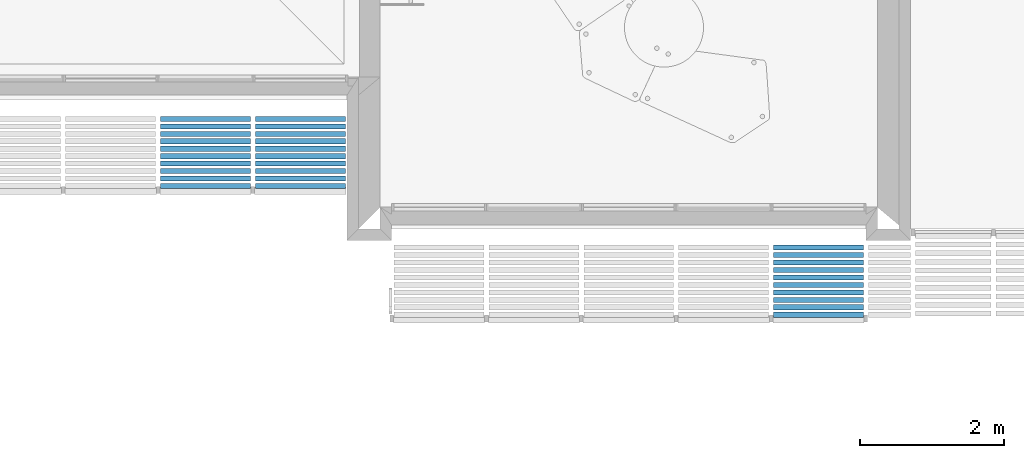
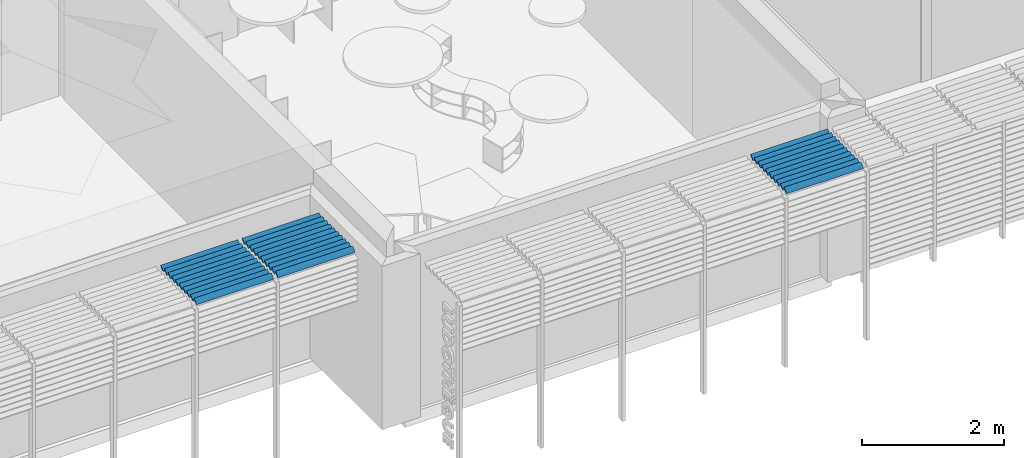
# One storey, part 32 of 64: 3 discrete accessories.
"""IFC2X3 building model written with IfcOpenShell, lengths in metres."""

from ifc_helpers import new_model, entity, si_unit, converted_unit, derived_unit, direction, frame, origin, place, context, subcontext, project, spatial, polyline, outline, extrude, source, transform, mapped, material, type_object, type_shapes, element, save


model = new_model("IFC2X3")

# Units and contexts
model_context = context("Model", 3, precision=1e-05, world=origin(), true_north=direction((6.123031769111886e-17, 1.0)))
body_context = subcontext(model_context, "Body", "Model", "MODEL_VIEW")
ifc_project = project(units=[si_unit("LENGTHUNIT", "METRE"), si_unit("AREAUNIT", "SQUARE_METRE"), si_unit("VOLUMEUNIT", "CUBIC_METRE"), converted_unit("PLANEANGLEUNIT", "DEGREE", entity("IfcRatioMeasure", 0.017453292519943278), si_unit("PLANEANGLEUNIT", "RADIAN"), dimensions=[0, 0, 0, 0, 0, 0, 0]), si_unit("MASSUNIT", "GRAM", prefix="KILO"), derived_unit("MASSDENSITYUNIT", [(si_unit("MASSUNIT", "GRAM", prefix="KILO"), 1), (si_unit("LENGTHUNIT", "METRE"), -3)]), derived_unit("MOMENTOFINERTIAUNIT", [(si_unit("LENGTHUNIT", "METRE"), 4)]), si_unit("TIMEUNIT", "SECOND"), si_unit("FREQUENCYUNIT", "HERTZ"), si_unit("THERMODYNAMICTEMPERATUREUNIT", "DEGREE_CELSIUS"), derived_unit("THERMALTRANSMITTANCEUNIT", [(si_unit("MASSUNIT", "GRAM", prefix="KILO"), 1), (si_unit("THERMODYNAMICTEMPERATUREUNIT", "KELVIN"), -1), (si_unit("TIMEUNIT", "SECOND"), -3)]), derived_unit("THERMALCONDUCTANCEUNIT", [(si_unit("MASSUNIT", "GRAM", prefix="KILO"), 1), (si_unit("LENGTHUNIT", "METRE"), 1), (si_unit("THERMODYNAMICTEMPERATUREUNIT", "KELVIN"), -1), (si_unit("TIMEUNIT", "SECOND"), -3)]), derived_unit("VOLUMETRICFLOWRATEUNIT", [(si_unit("LENGTHUNIT", "METRE"), 3), (si_unit("TIMEUNIT", "SECOND"), -1)]), derived_unit("MASSFLOWRATEUNIT", [(si_unit("MASSUNIT", "GRAM", prefix="KILO"), 1), (si_unit("TIMEUNIT", "SECOND"), -1)]), derived_unit("ROTATIONALFREQUENCYUNIT", [(si_unit("TIMEUNIT", "SECOND"), -1)]), si_unit("ELECTRICCURRENTUNIT", "AMPERE"), si_unit("ELECTRICVOLTAGEUNIT", "VOLT"), si_unit("POWERUNIT", "WATT"), si_unit("FORCEUNIT", "NEWTON", prefix="KILO"), si_unit("ILLUMINANCEUNIT", "LUX"), si_unit("LUMINOUSFLUXUNIT", "LUMEN"), si_unit("LUMINOUSINTENSITYUNIT", "CANDELA"), derived_unit("USERDEFINED", [(si_unit("MASSUNIT", "GRAM", prefix="KILO"), -1), (si_unit("LENGTHUNIT", "METRE"), -2), (si_unit("TIMEUNIT", "SECOND"), 3), (si_unit("LUMINOUSFLUXUNIT", "LUMEN"), 1)]), derived_unit("USERDEFINED", [(si_unit("MASSUNIT", "GRAM", prefix="KILO"), 1), (si_unit("LENGTHUNIT", "METRE"), 3), (si_unit("TIMEUNIT", "SECOND"), -3), (si_unit("ELECTRICCURRENTUNIT", "AMPERE"), -2)]), derived_unit("USERDEFINED", [(si_unit("LENGTHUNIT", "METRE"), 2), (si_unit("TIMEUNIT", "SECOND"), -2)]), derived_unit("SOUNDPOWERUNIT", [(si_unit("MASSUNIT", "GRAM", prefix="KILO"), 1), (si_unit("LENGTHUNIT", "METRE"), 2), (si_unit("TIMEUNIT", "SECOND"), -3)]), derived_unit("SOUNDPRESSUREUNIT", [(si_unit("MASSUNIT", "GRAM", prefix="KILO"), 1), (si_unit("LENGTHUNIT", "METRE"), -1), (si_unit("TIMEUNIT", "SECOND"), -2)]), derived_unit("LINEARVELOCITYUNIT", [(si_unit("LENGTHUNIT", "METRE"), 1), (si_unit("TIMEUNIT", "SECOND"), -1)]), si_unit("PRESSUREUNIT", "PASCAL"), derived_unit("USERDEFINED", [(si_unit("LENGTHUNIT", "METRE"), -2), (si_unit("MASSUNIT", "GRAM", prefix="KILO"), 1), (si_unit("TIMEUNIT", "SECOND"), -2)]), derived_unit("LINEARFORCEUNIT", [(si_unit("MASSUNIT", "GRAM", prefix="KILO"), 1), (si_unit("LENGTHUNIT", "METRE"), 1), (si_unit("TIMEUNIT", "SECOND"), -2), (si_unit("LENGTHUNIT", "METRE"), -1)]), derived_unit("PLANARFORCEUNIT", [(si_unit("MASSUNIT", "GRAM", prefix="KILO"), 1), (si_unit("LENGTHUNIT", "METRE"), 1), (si_unit("TIMEUNIT", "SECOND"), -2), (si_unit("LENGTHUNIT", "METRE"), -2)]), derived_unit("SPECIFICHEATCAPACITYUNIT", [(si_unit("LENGTHUNIT", "METRE"), 2), (si_unit("TIMEUNIT", "SECOND"), -2), (si_unit("THERMODYNAMICTEMPERATUREUNIT", "KELVIN"), -1)]), derived_unit("VAPORPERMEABILITYUNIT", [(si_unit("TIMEUNIT", "SECOND"), 1), (si_unit("LENGTHUNIT", "METRE"), -1)]), derived_unit("DYNAMICVISCOSITYUNIT", [(si_unit("MASSUNIT", "GRAM", prefix="KILO"), 1), (si_unit("LENGTHUNIT", "METRE"), -1), (si_unit("TIMEUNIT", "SECOND"), -1)]), derived_unit("THERMALEXPANSIONCOEFFICIENTUNIT", [(si_unit("THERMODYNAMICTEMPERATUREUNIT", "KELVIN"), -1)])], contexts=[model_context])

# Site, building, storey
site_placement = place(None, origin())
site = spatial("IfcSite", under=ifc_project, at=site_placement, Name="Default", CompositionType="ELEMENT")
building_placement = place(site_placement, origin())
building = spatial("IfcBuilding", under=site, at=building_placement, CompositionType="ELEMENT")
storey_placement = place(building_placement, origin())
storey = spatial("IfcBuildingStorey", under=building, at=storey_placement, Name="REZ-DE-CHAUSSÉE", CompositionType="ELEMENT", Elevation=0.0)

# Discrete accessories
ifc_material = material(Name="Bois - Chêne clair")
discrete_accessory_type_1 = type_object("IfcDiscreteAccessoryType", Name="Symb-0003", material=ifc_material)
shared_shape_1 = source(origin(), body_context, "Body", "SweptSolid", [
    extrude(outline(polyline([(-0.04642383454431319, -0.01856953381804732), (-0.02847328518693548, -0.01856953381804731), (-0.011760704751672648, -0.01547461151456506), (0.019188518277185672, -0.003094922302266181), (0.03342516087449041, 0.006189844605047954), (0.04642383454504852, 0.01856953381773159), (0.028473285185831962, 0.018569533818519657), (0.011760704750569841, 0.015474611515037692), (-0.019188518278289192, 0.0030949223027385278), (-0.033425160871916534, -0.006189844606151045), (-0.04642383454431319, -0.01856953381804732)])), frame((115.64575228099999, 3.9072094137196, 2.6500000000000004), z_axis=(1.0, 0.0, 0.0), x_axis=(0.0, 0.9191450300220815, 0.3939192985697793)), (0.0, 0.0, 1.0), 1.2500000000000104),
    extrude(outline(polyline([(-0.0464238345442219, -0.0185695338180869), (-0.028473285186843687, -0.018569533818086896), (-0.011760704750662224, -0.015474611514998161), (0.01918851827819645, -0.003094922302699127), (0.03342516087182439, 0.006189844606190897), (0.04642383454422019, 0.018569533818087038), (0.02847328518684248, 0.01856953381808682), (0.01176070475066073, 0.0154746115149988), (-0.01918851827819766, 0.003094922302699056), (-0.033425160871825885, -0.0061898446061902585), (-0.0464238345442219, -0.0185695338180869)])), frame((115.64575228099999, 3.8032094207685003, 2.6500000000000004), z_axis=(1.0, 0.0, 0.0), x_axis=(0.0, 0.9191450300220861, 0.39391929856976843)), (0.0, 0.0, 1.0), 1.2500000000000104),
    extrude(outline(polyline([(-0.04642383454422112, -0.01856953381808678), (-0.02847328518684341, -0.01856953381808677), (-0.011760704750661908, -0.015474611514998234), (0.01918851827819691, -0.0030949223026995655), (0.03342516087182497, 0.006189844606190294), (0.04642383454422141, 0.01856953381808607), (0.028473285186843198, 0.01856953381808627), (0.011760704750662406, 0.015474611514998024), (-0.019188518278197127, 0.0030949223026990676), (-0.03342516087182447, -0.006189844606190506), (-0.04642383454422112, -0.01856953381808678)])), frame((115.64575228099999, 3.6992094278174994, 2.6500000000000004), z_axis=(1.0, 0.0, 0.0), x_axis=(0.0, 0.9191450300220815, 0.3939192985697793)), (0.0, 0.0, 1.0), 1.2500000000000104),
    extrude(outline(polyline([(-0.046423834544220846, -0.018569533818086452), (-0.028473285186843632, -0.018569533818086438), (-0.011760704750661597, -0.01547461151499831), (0.019188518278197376, -0.003094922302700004), (0.03342516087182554, 0.0061898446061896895), (0.04642383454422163, 0.018569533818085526), (0.028473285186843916, 0.018569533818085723), (0.011760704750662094, 0.015474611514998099), (-0.01918851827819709, 0.0030949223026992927), (-0.033425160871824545, -0.0061898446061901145), (-0.046423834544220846, -0.018569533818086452)])), frame((115.64575228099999, 3.5952094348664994, 2.6500000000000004), z_axis=(1.0, 0.0, 0.0), x_axis=(0.0, 0.9191450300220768, 0.3939192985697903)), (0.0, 0.0, 1.0), 1.2500000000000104),
    extrude(outline(polyline([(-0.046423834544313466, -0.018569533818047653), (-0.028473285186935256, -0.01856953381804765), (-0.011760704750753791, -0.015474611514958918), (0.019188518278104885, -0.0030949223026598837), (0.03342516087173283, 0.006189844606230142), (0.04642383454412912, 0.01856953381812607), (0.028473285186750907, 0.018569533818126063), (0.011760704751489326, 0.015474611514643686), (-0.01918851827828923, 0.0030949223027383), (-0.03342516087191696, -0.006189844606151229), (-0.046423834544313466, -0.018569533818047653)])), frame((115.64575228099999, 3.4912094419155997, 2.6500000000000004), z_axis=(1.0, 0.0, 0.0), x_axis=(0.0, 0.9191450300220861, 0.39391929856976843)), (0.0, 0.0, 1.0), 1.2500000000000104),
    extrude(outline(polyline([(-0.04642383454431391, -0.018569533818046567), (-0.028473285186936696, -0.018569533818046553), (-0.011760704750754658, -0.01547461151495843), (0.019188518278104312, -0.0030949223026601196), (0.03342516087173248, 0.006189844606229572), (0.046423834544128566, 0.018569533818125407), (0.02847328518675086, 0.018569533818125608), (0.011760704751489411, 0.015474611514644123), (-0.019188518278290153, 0.0030949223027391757), (-0.0334251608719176, -0.006189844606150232), (-0.04642383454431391, -0.018569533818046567)])), frame((115.64575228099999, 3.3872094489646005, 2.6500000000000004), z_axis=(1.0, 0.0, 0.0), x_axis=(0.0, 0.9191450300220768, 0.3939192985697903)), (0.0, 0.0, 1.0), 1.2500000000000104),
    extrude(outline(polyline([(-0.04642383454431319, -0.018569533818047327), (-0.02847328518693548, -0.018569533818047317), (-0.011760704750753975, -0.015474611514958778), (0.019188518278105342, -0.0030949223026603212), (0.033425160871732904, 0.006189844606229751), (0.046423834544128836, 0.01856953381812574), (0.02847328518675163, 0.018569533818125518), (0.011760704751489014, 0.015474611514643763), (-0.019188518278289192, 0.0030949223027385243), (-0.033425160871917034, -0.006189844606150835), (-0.04642383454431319, -0.018569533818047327)])), frame((115.64575228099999, 3.2832094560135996, 2.6500000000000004), z_axis=(1.0, 0.0, 0.0), x_axis=(0.0, 0.9191450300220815, 0.3939192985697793)), (0.0, 0.0, 1.0), 1.2500000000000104),
    extrude(outline(polyline([(-0.046423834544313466, -0.018569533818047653), (-0.028473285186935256, -0.01856953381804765), (-0.011760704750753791, -0.015474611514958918), (0.019188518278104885, -0.0030949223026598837), (0.03342516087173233, 0.006189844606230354), (0.04642383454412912, 0.01856953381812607), (0.028473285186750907, 0.018569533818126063), (0.01176070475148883, 0.015474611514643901), (-0.01918851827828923, 0.0030949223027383), (-0.03342516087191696, -0.006189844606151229), (-0.046423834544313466, -0.018569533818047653)])), frame((115.64575228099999, 3.1792094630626, 2.6500000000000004), z_axis=(1.0, 0.0, 0.0), x_axis=(0.0, 0.9191450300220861, 0.39391929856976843)), (0.0, 0.0, 1.0), 1.2500000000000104),
    extrude(outline(polyline([(-0.04642383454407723, -0.01856953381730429), (-0.028473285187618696, -0.01856953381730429), (-0.011760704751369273, -0.015474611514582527), (0.019188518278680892, -0.0030949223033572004), (0.033425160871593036, 0.006189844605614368), (0.046423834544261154, 0.018569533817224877), (0.028473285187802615, 0.018569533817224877), (0.011760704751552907, 0.015474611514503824), (-0.019188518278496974, 0.003094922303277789), (-0.03342516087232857, -0.006189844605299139), (-0.04642383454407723, -0.01856953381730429)])), frame((115.64575228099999, 3.0752094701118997, 2.6500000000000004), z_axis=(1.0, 0.0, 0.0), x_axis=(0.0, 0.9191450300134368, 0.3939192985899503)), (0.0, 0.0, 1.0), 1.2500000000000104),
    extrude(outline(polyline([(-0.046423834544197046, -0.01856953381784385), (-0.02847328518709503, -0.01856953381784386), (-0.011760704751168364, -0.015474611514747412), (0.01918851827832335, -0.003094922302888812), (0.03342516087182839, 0.006189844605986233), (0.04642383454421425, 0.018569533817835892), (0.02847328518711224, 0.0185695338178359), (0.011760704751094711, 0.015474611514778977), (-0.019188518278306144, 0.0030949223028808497), (-0.033425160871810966, -0.006189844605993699), (-0.046423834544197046, -0.01856953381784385)])), frame((115.64575228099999, 2.97120947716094, 2.6500000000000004), z_axis=(1.0, 0.0, 0.0), x_axis=(0.0, 0.9191450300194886, 0.3939192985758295)), (0.0, 0.0, 1.0), 1.2500000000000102),
])
type_shapes(discrete_accessory_type_1, [shared_shape_1])
discrete_accessory_1_placement = place(storey_placement, origin())
element("IfcDiscreteAccessory", 1, at=discrete_accessory_1_placement, inside=storey, type_object=discrete_accessory_type_1, material=ifc_material, Name="Symb-0003 449563:Symb-0003 449563", ObjectType="Symb-0003 449563:Symb-0003 449563", context=body_context, shape_type="MappedRepresentation", body=[
    mapped(shared_shape_1, transform((0.0, 0.0, 0.0), scale=1.0)),
])
discrete_accessory_type_2 = type_object("IfcDiscreteAccessoryType", Name="Symb-0003", material=ifc_material)
shared_shape_2 = source(origin(), body_context, "Body", "SweptSolid", [
    extrude(outline(polyline([(-0.04642383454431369, -0.018569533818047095), (-0.028473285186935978, -0.01856953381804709), (-0.011760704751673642, -0.015474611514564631), (0.019188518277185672, -0.003094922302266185), (0.03342516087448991, 0.006189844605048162), (0.046423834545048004, 0.01856953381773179), (0.028473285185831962, 0.01856953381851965), (0.011760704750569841, 0.01547461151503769), (-0.01918851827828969, 0.003094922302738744), (-0.033425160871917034, -0.006189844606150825), (-0.04642383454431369, -0.018569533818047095)])), frame((107.11575228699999, 5.6972094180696, 2.6500000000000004), z_axis=(1.0, 0.0, 0.0), x_axis=(0.0, 0.9191450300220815, 0.3939192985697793)), (0.0, 0.0, 1.0), 1.2499999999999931),
    extrude(outline(polyline([(-0.04642383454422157, -0.01856953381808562), (-0.028473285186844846, -0.018569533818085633), (-0.011760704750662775, -0.015474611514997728), (0.01918851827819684, -0.0030949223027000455), (0.033425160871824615, 0.00618984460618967), (0.04642383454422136, 0.01856953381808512), (0.02847328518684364, 0.01856953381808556), (0.01176070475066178, 0.015474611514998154), (-0.01918851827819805, 0.0030949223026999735), (-0.033425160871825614, -0.006189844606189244), (-0.04642383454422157, -0.01856953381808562)])), frame((107.11575228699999, 5.5932094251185, 2.6500000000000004), z_axis=(1.0, 0.0, 0.0), x_axis=(0.0, 0.9191450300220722, 0.3939192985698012)), (0.0, 0.0, 1.0), 1.2499999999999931),
    extrude(outline(polyline([(-0.04642383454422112, -0.018569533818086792), (-0.02847328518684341, -0.01856953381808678), (-0.011760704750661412, -0.015474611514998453), (0.01918851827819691, -0.0030949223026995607), (0.03342516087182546, 0.006189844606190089), (0.0464238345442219, 0.01856953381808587), (0.028473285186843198, 0.018569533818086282), (0.011760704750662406, 0.015474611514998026), (-0.019188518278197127, 0.003094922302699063), (-0.03342516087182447, -0.006189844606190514), (-0.04642383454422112, -0.018569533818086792)])), frame((107.11575228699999, 5.4892094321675, 2.6500000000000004), z_axis=(1.0, 0.0, 0.0), x_axis=(0.0, 0.9191450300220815, 0.3939192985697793)), (0.0, 0.0, 1.0), 1.2499999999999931),
    extrude(outline(polyline([(-0.04642383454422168, -0.018569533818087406), (-0.02847328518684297, -0.01856953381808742), (-0.01176070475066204, -0.01547461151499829), (0.019188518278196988, -0.00309492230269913), (0.03342516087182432, 0.0061898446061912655), (0.04642383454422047, 0.018569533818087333), (0.028473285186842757, 0.01856953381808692), (0.011760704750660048, 0.015474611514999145), (-0.019188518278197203, 0.003094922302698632), (-0.03342516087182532, -0.0061898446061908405), (-0.04642383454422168, -0.018569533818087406)])), frame((107.11575228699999, 5.385209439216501, 2.6500000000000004), z_axis=(1.0, 0.0, 0.0), x_axis=(0.0, 0.9191450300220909, 0.3939192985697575)), (0.0, 0.0, 1.0), 1.2499999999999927),
    extrude(outline(polyline([(-0.04642383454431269, -0.018569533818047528), (-0.02847328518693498, -0.01856953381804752), (-0.011760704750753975, -0.015474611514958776), (0.019188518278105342, -0.003094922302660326), (0.033425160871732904, 0.006189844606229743), (0.046423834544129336, 0.018569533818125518), (0.02847328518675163, 0.018569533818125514), (0.01176070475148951, 0.015474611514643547), (-0.019188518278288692, 0.0030949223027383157), (-0.03342516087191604, -0.006189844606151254), (-0.04642383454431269, -0.018569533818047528)])), frame((107.11575228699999, 5.281209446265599, 2.6500000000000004), z_axis=(1.0, 0.0, 0.0), x_axis=(0.0, 0.9191450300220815, 0.3939192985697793)), (0.0, 0.0, 1.0), 1.2499999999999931),
    extrude(outline(polyline([(-0.04642383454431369, -0.0185695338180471), (-0.028473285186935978, -0.018569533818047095), (-0.011760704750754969, -0.01547461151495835), (0.019188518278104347, -0.0030949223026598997), (0.033425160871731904, 0.006189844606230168), (0.04642383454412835, 0.01856953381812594), (0.028473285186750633, 0.018569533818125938), (0.01176070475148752, 0.0154746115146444), (-0.01918851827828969, 0.0030949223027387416), (-0.033425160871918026, -0.0061898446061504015), (-0.04642383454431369, -0.0185695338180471)])), frame((107.11575228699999, 5.177209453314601, 2.6500000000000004), z_axis=(1.0, 0.0, 0.0), x_axis=(0.0, 0.9191450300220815, 0.3939192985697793)), (0.0, 0.0, 1.0), 1.2499999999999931),
    extrude(outline(polyline([(-0.04642383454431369, -0.01856953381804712), (-0.028473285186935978, -0.01856953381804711), (-0.011760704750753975, -0.015474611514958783), (0.019188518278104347, -0.00309492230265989), (0.033425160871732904, 0.00618984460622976), (0.046423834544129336, 0.01856953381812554), (0.028473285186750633, 0.01856953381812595), (0.01176070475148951, 0.015474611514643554), (-0.01918851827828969, 0.0030949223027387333), (-0.033425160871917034, -0.006189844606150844), (-0.04642383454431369, -0.01856953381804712)])), frame((107.11575228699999, 5.0732094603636, 2.6500000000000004), z_axis=(1.0, 0.0, 0.0), x_axis=(0.0, 0.9191450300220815, 0.3939192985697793)), (0.0, 0.0, 1.0), 1.2499999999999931),
    extrude(outline(polyline([(-0.04642383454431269, -0.01856953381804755), (-0.02847328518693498, -0.01856953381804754), (-0.01176070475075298, -0.01547461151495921), (0.019188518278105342, -0.0030949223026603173), (0.033425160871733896, 0.006189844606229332), (0.046423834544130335, 0.018569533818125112), (0.02847328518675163, 0.018569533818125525), (0.01176070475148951, 0.015474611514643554), (-0.019188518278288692, 0.003094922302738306), (-0.03342516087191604, -0.0061898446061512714), (-0.04642383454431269, -0.01856953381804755)])), frame((107.11575228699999, 4.9692094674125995, 2.6500000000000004), z_axis=(1.0, 0.0, 0.0), x_axis=(0.0, 0.9191450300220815, 0.3939192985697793)), (0.0, 0.0, 1.0), 1.2499999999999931),
    extrude(outline(polyline([(-0.04642383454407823, -0.018569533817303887), (-0.028473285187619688, -0.018569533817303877), (-0.011760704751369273, -0.015474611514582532), (0.0191885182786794, -0.003094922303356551), (0.033425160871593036, 0.006189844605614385), (0.04642383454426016, 0.018569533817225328), (0.02847328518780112, 0.018569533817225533), (0.01176070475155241, 0.015474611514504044), (-0.01918851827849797, 0.0030949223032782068), (-0.03342516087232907, -0.006189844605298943), (-0.04642383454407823, -0.018569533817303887)])), frame((107.11575228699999, 4.865209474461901, 2.6500000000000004), z_axis=(1.0, 0.0, 0.0), x_axis=(0.0, 0.9191450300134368, 0.3939192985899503)), (0.0, 0.0, 1.0), 1.249999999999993),
    extrude(outline(polyline([(-0.046423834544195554, -0.018569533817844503), (-0.028473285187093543, -0.018569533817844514), (-0.011760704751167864, -0.01547461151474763), (0.019188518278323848, -0.00309492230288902), (0.03342516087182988, 0.006189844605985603), (0.04642383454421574, 0.018569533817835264), (0.02847328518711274, 0.018569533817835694), (0.011760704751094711, 0.015474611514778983), (-0.019188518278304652, 0.003094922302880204), (-0.033425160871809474, -0.006189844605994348), (-0.046423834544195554, -0.018569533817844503)])), frame((107.11575228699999, 4.76120948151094, 2.6500000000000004), z_axis=(1.0, 0.0, 0.0), x_axis=(0.0, 0.9191450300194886, 0.3939192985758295)), (0.0, 0.0, 1.0), 1.2499999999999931),
])
type_shapes(discrete_accessory_type_2, [shared_shape_2])
discrete_accessory_2_placement = place(storey_placement, origin())
element("IfcDiscreteAccessory", 2, at=discrete_accessory_2_placement, inside=storey, type_object=discrete_accessory_type_2, material=ifc_material, Name="Symb-0003 453223:Symb-0003 453223", ObjectType="Symb-0003 453223:Symb-0003 453223", context=body_context, shape_type="MappedRepresentation", body=[
    mapped(shared_shape_2, transform((0.0, 0.0, 0.0), scale=1.0)),
])
discrete_accessory_type_3 = type_object("IfcDiscreteAccessoryType", Name="Symb-0003", material=ifc_material)
shared_shape_3 = source(origin(), body_context, "Body", "SweptSolid", [
    extrude(outline(polyline([(-0.04642383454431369, -0.018569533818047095), (-0.028473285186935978, -0.01856953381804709), (-0.011760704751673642, -0.015474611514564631), (0.019188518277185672, -0.003094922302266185), (0.03342516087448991, 0.006189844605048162), (0.046423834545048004, 0.01856953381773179), (0.028473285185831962, 0.01856953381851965), (0.011760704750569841, 0.01547461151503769), (-0.01918851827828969, 0.003094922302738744), (-0.033425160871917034, -0.006189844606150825), (-0.04642383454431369, -0.018569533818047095)])), frame((108.43575228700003, 5.6972094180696, 2.6500000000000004), z_axis=(1.0, 0.0, 0.0), x_axis=(0.0, 0.9191450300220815, 0.3939192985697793)), (0.0, 0.0, 1.0), 1.2499999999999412),
    extrude(outline(polyline([(-0.04642383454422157, -0.01856953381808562), (-0.028473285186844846, -0.018569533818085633), (-0.011760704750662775, -0.015474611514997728), (0.01918851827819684, -0.0030949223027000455), (0.033425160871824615, 0.00618984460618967), (0.04642383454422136, 0.01856953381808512), (0.02847328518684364, 0.01856953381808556), (0.01176070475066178, 0.015474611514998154), (-0.01918851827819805, 0.0030949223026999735), (-0.033425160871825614, -0.006189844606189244), (-0.04642383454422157, -0.01856953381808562)])), frame((108.43575228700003, 5.5932094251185, 2.6500000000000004), z_axis=(1.0, 0.0, 0.0), x_axis=(0.0, 0.9191450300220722, 0.3939192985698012)), (0.0, 0.0, 1.0), 1.2499999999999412),
    extrude(outline(polyline([(-0.04642383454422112, -0.018569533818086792), (-0.02847328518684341, -0.01856953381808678), (-0.011760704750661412, -0.015474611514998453), (0.01918851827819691, -0.0030949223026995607), (0.03342516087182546, 0.006189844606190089), (0.0464238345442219, 0.01856953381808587), (0.028473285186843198, 0.018569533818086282), (0.011760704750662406, 0.015474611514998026), (-0.019188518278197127, 0.003094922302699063), (-0.03342516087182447, -0.006189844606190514), (-0.04642383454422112, -0.018569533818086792)])), frame((108.43575228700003, 5.4892094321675, 2.6500000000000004), z_axis=(1.0, 0.0, 0.0), x_axis=(0.0, 0.9191450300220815, 0.3939192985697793)), (0.0, 0.0, 1.0), 1.2499999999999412),
    extrude(outline(polyline([(-0.04642383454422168, -0.018569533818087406), (-0.02847328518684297, -0.01856953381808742), (-0.01176070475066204, -0.01547461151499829), (0.019188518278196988, -0.00309492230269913), (0.03342516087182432, 0.0061898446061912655), (0.04642383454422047, 0.018569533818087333), (0.028473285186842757, 0.01856953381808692), (0.011760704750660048, 0.015474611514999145), (-0.019188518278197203, 0.003094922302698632), (-0.03342516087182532, -0.0061898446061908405), (-0.04642383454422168, -0.018569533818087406)])), frame((108.43575228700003, 5.385209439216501, 2.6500000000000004), z_axis=(1.0, 0.0, 0.0), x_axis=(0.0, 0.9191450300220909, 0.3939192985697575)), (0.0, 0.0, 1.0), 1.2499999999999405),
    extrude(outline(polyline([(-0.04642383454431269, -0.018569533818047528), (-0.02847328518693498, -0.01856953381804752), (-0.011760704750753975, -0.015474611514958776), (0.019188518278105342, -0.003094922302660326), (0.033425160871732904, 0.006189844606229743), (0.046423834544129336, 0.018569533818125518), (0.02847328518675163, 0.018569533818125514), (0.01176070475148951, 0.015474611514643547), (-0.019188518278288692, 0.0030949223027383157), (-0.03342516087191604, -0.006189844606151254), (-0.04642383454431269, -0.018569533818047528)])), frame((108.43575228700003, 5.281209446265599, 2.6500000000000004), z_axis=(1.0, 0.0, 0.0), x_axis=(0.0, 0.9191450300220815, 0.3939192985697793)), (0.0, 0.0, 1.0), 1.2499999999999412),
    extrude(outline(polyline([(-0.04642383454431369, -0.0185695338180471), (-0.028473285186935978, -0.018569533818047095), (-0.011760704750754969, -0.01547461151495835), (0.019188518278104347, -0.0030949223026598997), (0.033425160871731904, 0.006189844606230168), (0.04642383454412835, 0.01856953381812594), (0.028473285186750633, 0.018569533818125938), (0.01176070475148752, 0.0154746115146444), (-0.01918851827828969, 0.0030949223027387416), (-0.033425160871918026, -0.0061898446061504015), (-0.04642383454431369, -0.0185695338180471)])), frame((108.43575228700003, 5.177209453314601, 2.6500000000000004), z_axis=(1.0, 0.0, 0.0), x_axis=(0.0, 0.9191450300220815, 0.3939192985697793)), (0.0, 0.0, 1.0), 1.2499999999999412),
    extrude(outline(polyline([(-0.04642383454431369, -0.01856953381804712), (-0.028473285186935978, -0.01856953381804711), (-0.011760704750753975, -0.015474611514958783), (0.019188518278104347, -0.00309492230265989), (0.033425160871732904, 0.00618984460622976), (0.046423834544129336, 0.01856953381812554), (0.028473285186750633, 0.01856953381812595), (0.01176070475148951, 0.015474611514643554), (-0.01918851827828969, 0.0030949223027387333), (-0.033425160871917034, -0.006189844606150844), (-0.04642383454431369, -0.01856953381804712)])), frame((108.43575228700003, 5.0732094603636, 2.6500000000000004), z_axis=(1.0, 0.0, 0.0), x_axis=(0.0, 0.9191450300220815, 0.3939192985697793)), (0.0, 0.0, 1.0), 1.2499999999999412),
    extrude(outline(polyline([(-0.04642383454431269, -0.01856953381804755), (-0.02847328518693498, -0.01856953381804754), (-0.01176070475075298, -0.01547461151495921), (0.019188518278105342, -0.0030949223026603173), (0.033425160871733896, 0.006189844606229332), (0.046423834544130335, 0.018569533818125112), (0.02847328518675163, 0.018569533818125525), (0.01176070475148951, 0.015474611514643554), (-0.019188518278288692, 0.003094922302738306), (-0.03342516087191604, -0.0061898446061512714), (-0.04642383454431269, -0.01856953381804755)])), frame((108.43575228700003, 4.9692094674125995, 2.6500000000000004), z_axis=(1.0, 0.0, 0.0), x_axis=(0.0, 0.9191450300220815, 0.3939192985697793)), (0.0, 0.0, 1.0), 1.2499999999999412),
    extrude(outline(polyline([(-0.04642383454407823, -0.018569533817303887), (-0.028473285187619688, -0.018569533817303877), (-0.011760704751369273, -0.015474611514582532), (0.0191885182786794, -0.003094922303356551), (0.033425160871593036, 0.006189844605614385), (0.04642383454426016, 0.018569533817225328), (0.02847328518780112, 0.018569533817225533), (0.01176070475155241, 0.015474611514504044), (-0.01918851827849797, 0.0030949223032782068), (-0.03342516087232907, -0.006189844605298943), (-0.04642383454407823, -0.018569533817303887)])), frame((108.43575228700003, 4.865209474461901, 2.6500000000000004), z_axis=(1.0, 0.0, 0.0), x_axis=(0.0, 0.9191450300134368, 0.3939192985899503)), (0.0, 0.0, 1.0), 1.249999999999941),
    extrude(outline(polyline([(-0.046423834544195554, -0.018569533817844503), (-0.028473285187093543, -0.018569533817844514), (-0.011760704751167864, -0.01547461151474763), (0.019188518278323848, -0.00309492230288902), (0.03342516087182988, 0.006189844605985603), (0.04642383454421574, 0.018569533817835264), (0.02847328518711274, 0.018569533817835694), (0.011760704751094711, 0.015474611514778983), (-0.019188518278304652, 0.003094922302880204), (-0.033425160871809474, -0.006189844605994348), (-0.046423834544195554, -0.018569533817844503)])), frame((108.43575228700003, 4.76120948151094, 2.6500000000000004), z_axis=(1.0, 0.0, 0.0), x_axis=(0.0, 0.9191450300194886, 0.3939192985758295)), (0.0, 0.0, 1.0), 1.2499999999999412),
])
type_shapes(discrete_accessory_type_3, [shared_shape_3])
discrete_accessory_3_placement = place(storey_placement, origin())
element("IfcDiscreteAccessory", 3, at=discrete_accessory_3_placement, inside=storey, type_object=discrete_accessory_type_3, material=ifc_material, Name="Symb-0003 453253:Symb-0003 453253", ObjectType="Symb-0003 453253:Symb-0003 453253", context=body_context, shape_type="MappedRepresentation", body=[
    mapped(shared_shape_3, transform((0.0, 0.0, 0.0), scale=1.0)),
])

save(model, "model.ifc")
